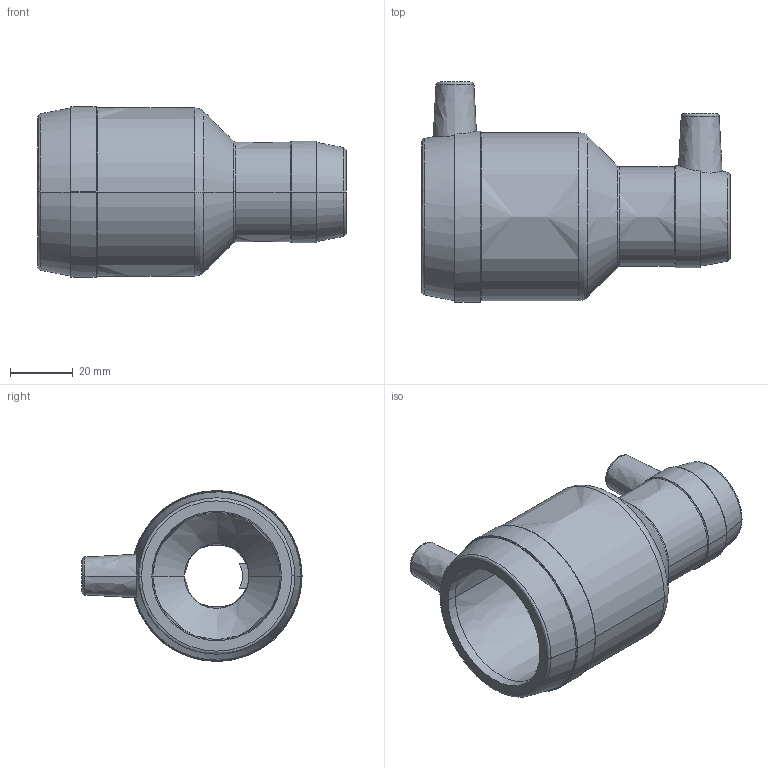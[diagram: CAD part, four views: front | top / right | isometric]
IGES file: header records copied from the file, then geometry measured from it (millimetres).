
Start section:  PTC IGES file: mr_d040-020_01.igs
Global section: file name: mr_d040-020_01.igs; native system: Pro/ENGINEER by Parametric Technology Corporation; preprocessor: 2011490; author: mtunjic; organization: Unknown; date: 20130816.154940; units: millimetre
Bounding box: 98 x 69.97 x 54.3 mm (x, y, z)
Surface area: 26729.3 mm2 (no closed solid volume)
Topology: 0 solids, 0 shells, 185 faces, 920 edges, 920 vertices
Faces by surface type: bspline 185
